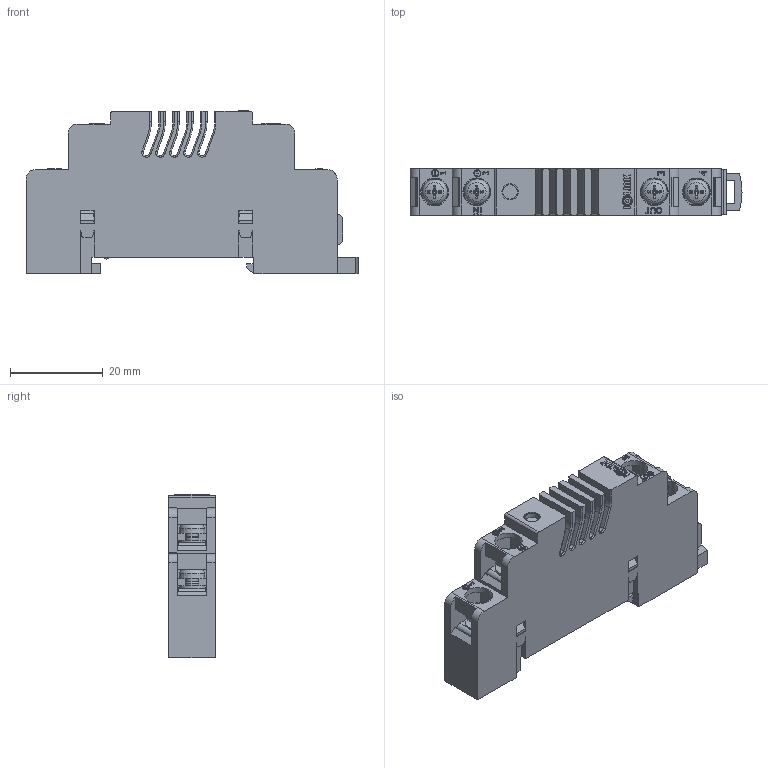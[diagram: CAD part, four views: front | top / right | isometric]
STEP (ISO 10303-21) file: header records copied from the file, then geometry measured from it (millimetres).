
FILE_DESCRIPTION(/* description */ (''),/* implementation_level */ '2;1');
FILE_NAME(/* name */ 'S14-4P-202G.stp',/* time_stamp */ '2022-01-06T13:19:47+09:00',/* author */ (''),/* organization */ (''),/* preprocessor_version */ 'ST-DEVELOPER v16.7',/* originating_system */ 'SIEMENS PLM Software NX 12.0',/* authorisation */ '');
FILE_SCHEMA (('AUTOMOTIVE_DESIGN { 1 0 10303 214 3 1 1 1 }'));
Length unit declared in the file: millimetre
Products named in the file (1): BWJE64D4E2239igs
Bounding box: 71.5 x 10 x 35.2 mm (x, y, z)
Volume: 16858.7 mm3; surface area: 9934.9 mm2
Topology: 1 solids, 7 shells, 842 faces, 2251 edges, 1459 vertices
Faces by surface type: plane 508, cylinder 149, torus 67, bspline 63, cone 45, extrusion 6, sphere 4
Full cylindrical faces by diameter (mm): 0.679 x1, 1.521 x1, 1.899 x1, 2.265 x1, 2.693 x4, 3 x12, 3.1 x1, 3.5 x1, 4 x4, 5.8 x4, 6 x4
Entity records: 28649 total; most frequent: CARTESIAN_POINT 6523, ORIENTED_EDGE 4354, DIRECTION 3941, EDGE_CURVE 2177, VECTOR 1463, LINE 1457, VERTEX_POINT 1443, AXIS2_PLACEMENT_3D 1239
